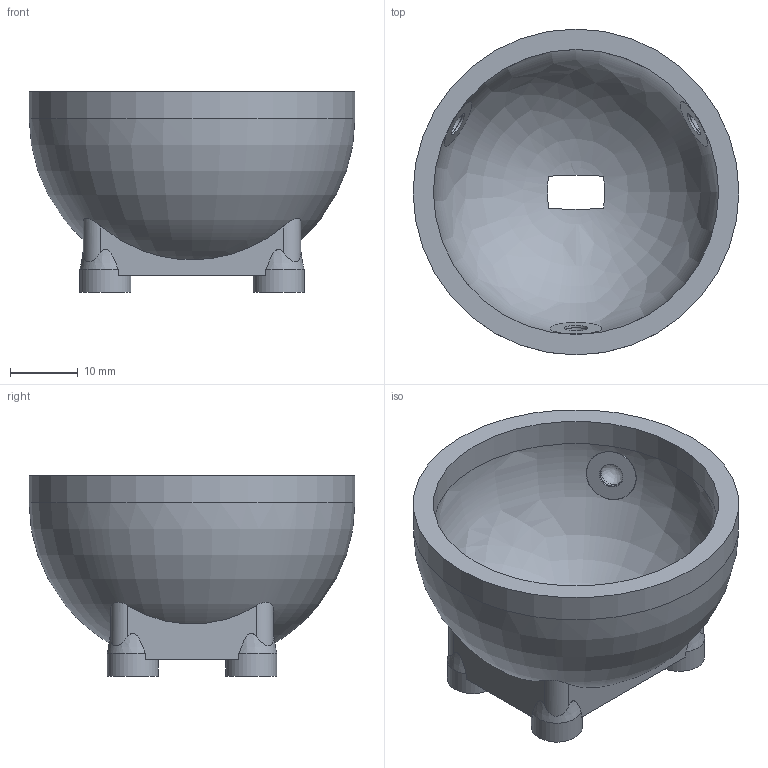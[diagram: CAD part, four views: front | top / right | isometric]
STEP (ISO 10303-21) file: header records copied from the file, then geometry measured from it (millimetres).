
FILE_DESCRIPTION(('Open CASCADE Model'),'2;1');
FILE_NAME('Open CASCADE Shape Model','2026-06-04T07:57:39',('Author'),( 'Open CASCADE'),'Open CASCADE STEP processor 7.6','Open CASCADE 7.6' ,'Unknown');
FILE_SCHEMA(('AP242_MANAGED_MODEL_BASED_3D_ENGINEERING_MIM_LF. {1 0 10303 442 1 1 4 }'));
Length unit declared in the file: millimetre
Products named in the file (1): Open CASCADE STEP translator 7.6 3
Bounding box: 48 x 48 x 29.6 mm (x, y, z)
Volume: 12872.1 mm3; surface area: 8991.9 mm2
Topology: 1 solids, 1 shells, 65 faces, 153 edges, 101 vertices
Faces by surface type: cylinder 27, plane 22, revolution 8, bspline 4, cone 4
Full cylindrical faces by diameter (mm): 3.5 x4, 3.57 x3, 3.572 x3, 7.5 x4, 7.57 x3, 42 x1, 48 x1
Entity records: 8908 total; most frequent: CARTESIAN_POINT 5901, DIRECTION 537, ORIENTED_EDGE 300, PCURVE 300, DEFINITIONAL_REPRESENTATION 300, LINE 251, VECTOR 251, EDGE_CURVE 150
